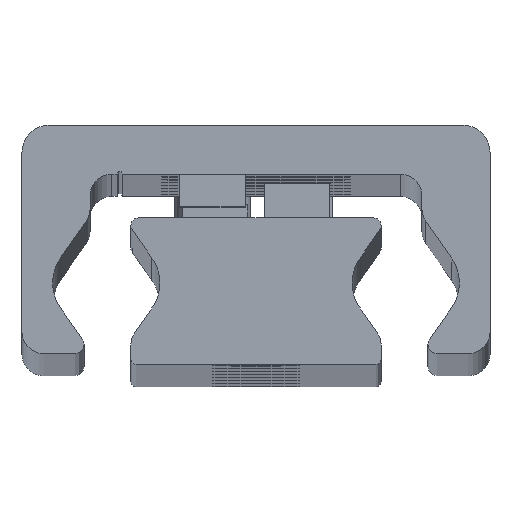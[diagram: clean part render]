
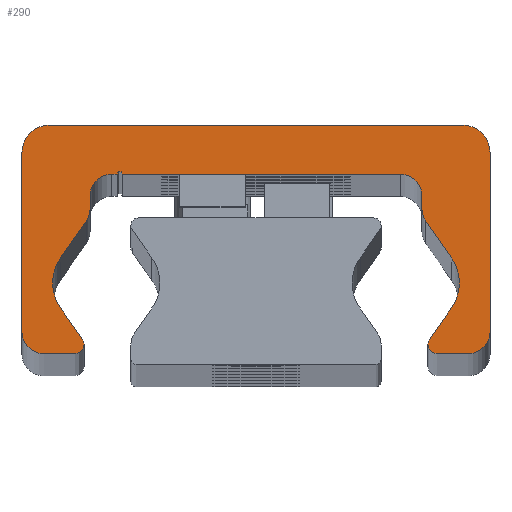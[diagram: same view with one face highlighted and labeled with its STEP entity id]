
A CAD part, top view. The second image highlights one B-rep face of the part: STEP entity #290.
In plain terms, the highlighted planar face has unit normal (0, 0, 1).
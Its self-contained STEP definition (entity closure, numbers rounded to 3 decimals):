
#290=ADVANCED_FACE('',(#808),#809,.T.);
#808=FACE_OUTER_BOUND('',#1327,.T.);
#809=PLANE('',#1328);
#1327=EDGE_LOOP('',(#3074,#3075,#3076,#3077,#3078,#3079,#3080,#3081,#3082,#3083,#3084,#3085,#3086,#3087,#3088,#3089,#3090,#3091,#3092,#3093,#3094,#3095,#3096,#3097,#3098,#3099,#3100,#3101,#3102,#3103));
#1328=AXIS2_PLACEMENT_3D('',#3104,#3105,#3106);
#3074=ORIENTED_EDGE('',*,*,#3449,.F.);
#3075=ORIENTED_EDGE('',*,*,#3702,.F.);
#3076=ORIENTED_EDGE('',*,*,#3435,.F.);
#3077=ORIENTED_EDGE('',*,*,#3701,.F.);
#3078=ORIENTED_EDGE('',*,*,#3697,.F.);
#3079=ORIENTED_EDGE('',*,*,#3694,.F.);
#3080=ORIENTED_EDGE('',*,*,#3691,.F.);
#3081=ORIENTED_EDGE('',*,*,#3688,.F.);
#3082=ORIENTED_EDGE('',*,*,#3685,.F.);
#3083=ORIENTED_EDGE('',*,*,#3682,.F.);
#3084=ORIENTED_EDGE('',*,*,#3679,.F.);
#3085=ORIENTED_EDGE('',*,*,#3676,.F.);
#3086=ORIENTED_EDGE('',*,*,#3673,.F.);
#3087=ORIENTED_EDGE('',*,*,#3670,.F.);
#3088=ORIENTED_EDGE('',*,*,#3441,.F.);
#3089=ORIENTED_EDGE('',*,*,#3668,.F.);
#3090=ORIENTED_EDGE('',*,*,#3443,.F.);
#3091=ORIENTED_EDGE('',*,*,#3667,.F.);
#3092=ORIENTED_EDGE('',*,*,#3663,.F.);
#3093=ORIENTED_EDGE('',*,*,#3660,.F.);
#3094=ORIENTED_EDGE('',*,*,#3657,.F.);
#3095=ORIENTED_EDGE('',*,*,#3654,.F.);
#3096=ORIENTED_EDGE('',*,*,#3651,.F.);
#3097=ORIENTED_EDGE('',*,*,#3648,.F.);
#3098=ORIENTED_EDGE('',*,*,#3645,.F.);
#3099=ORIENTED_EDGE('',*,*,#3642,.F.);
#3100=ORIENTED_EDGE('',*,*,#3639,.F.);
#3101=ORIENTED_EDGE('',*,*,#3636,.F.);
#3102=ORIENTED_EDGE('',*,*,#3633,.F.);
#3103=ORIENTED_EDGE('',*,*,#3630,.F.);
#3104=CARTESIAN_POINT('',(-0.023,14.187,1170.0));
#3105=DIRECTION('',(0.0,0.0,1.0));
#3106=DIRECTION('',(1.0,0.0,0.0));
#3435=EDGE_CURVE('',#4174,#4177,#4178,.T.);
#3441=EDGE_CURVE('',#4187,#4183,#4189,.T.);
#3443=EDGE_CURVE('',#4190,#4193,#4194,.T.);
#3449=EDGE_CURVE('',#4203,#4199,#4205,.T.);
#3630=EDGE_CURVE('',#4199,#4496,#4497,.T.);
#3633=EDGE_CURVE('',#4496,#4501,#4502,.T.);
#3636=EDGE_CURVE('',#4501,#4506,#4507,.T.);
#3639=EDGE_CURVE('',#4506,#4511,#4512,.T.);
#3642=EDGE_CURVE('',#4511,#4516,#4517,.T.);
#3645=EDGE_CURVE('',#4516,#4521,#4522,.T.);
#3648=EDGE_CURVE('',#4521,#4526,#4527,.T.);
#3651=EDGE_CURVE('',#4526,#4531,#4532,.T.);
#3654=EDGE_CURVE('',#4531,#4536,#4537,.T.);
#3657=EDGE_CURVE('',#4536,#4541,#4542,.T.);
#3660=EDGE_CURVE('',#4541,#4546,#4547,.T.);
#3663=EDGE_CURVE('',#4546,#4551,#4552,.T.);
#3667=EDGE_CURVE('',#4551,#4190,#4557,.T.);
#3668=EDGE_CURVE('',#4193,#4187,#4558,.T.);
#3670=EDGE_CURVE('',#4183,#4560,#4561,.T.);
#3673=EDGE_CURVE('',#4560,#4565,#4566,.T.);
#3676=EDGE_CURVE('',#4565,#4570,#4571,.T.);
#3679=EDGE_CURVE('',#4570,#4575,#4576,.T.);
#3682=EDGE_CURVE('',#4575,#4580,#4581,.T.);
#3685=EDGE_CURVE('',#4580,#4585,#4586,.T.);
#3688=EDGE_CURVE('',#4585,#4590,#4591,.T.);
#3691=EDGE_CURVE('',#4590,#4595,#4596,.T.);
#3694=EDGE_CURVE('',#4595,#4600,#4601,.T.);
#3697=EDGE_CURVE('',#4600,#4605,#4606,.T.);
#3701=EDGE_CURVE('',#4605,#4174,#4611,.T.);
#3702=EDGE_CURVE('',#4177,#4203,#4612,.T.);
#4174=VERTEX_POINT('',#5234);
#4177=VERTEX_POINT('',#5238);
#4178=CIRCLE('',#5239,0.85);
#4183=VERTEX_POINT('',#5245);
#4187=VERTEX_POINT('',#5250);
#4189=CIRCLE('',#5253,0.85);
#4190=VERTEX_POINT('',#5254);
#4193=VERTEX_POINT('',#5258);
#4194=CIRCLE('',#5259,4.);
#4199=VERTEX_POINT('',#5265);
#4203=VERTEX_POINT('',#5270);
#4205=CIRCLE('',#5273,4.);
#4496=VERTEX_POINT('',#5650);
#4497=CIRCLE('',#5651,4.);
#4501=VERTEX_POINT('',#5656);
#4502=LINE('',#5657,#5658);
#4506=VERTEX_POINT('',#5664);
#4507=CIRCLE('',#5665,2.);
#4511=VERTEX_POINT('',#5670);
#4512=LINE('',#5671,#5672);
#4516=VERTEX_POINT('',#5678);
#4517=CIRCLE('',#5679,2.0);
#4521=VERTEX_POINT('',#5684);
#4522=LINE('',#5685,#5686);
#4526=VERTEX_POINT('',#5692);
#4527=CIRCLE('',#5693,0.25);
#4531=VERTEX_POINT('',#5698);
#4532=LINE('',#5699,#5700);
#4536=VERTEX_POINT('',#5706);
#4537=CIRCLE('',#5707,2.0);
#4541=VERTEX_POINT('',#5712);
#4542=LINE('',#5713,#5714);
#4546=VERTEX_POINT('',#5720);
#4547=CIRCLE('',#5721,2.0);
#4551=VERTEX_POINT('',#5726);
#4552=LINE('',#5727,#5728);
#4557=CIRCLE('',#5735,4.);
#4558=LINE('',#5736,#5737);
#4560=VERTEX_POINT('',#5740);
#4561=CIRCLE('',#5741,0.85);
#4565=VERTEX_POINT('',#5746);
#4566=LINE('',#5747,#5748);
#4570=VERTEX_POINT('',#5754);
#4571=CIRCLE('',#5755,2.);
#4575=VERTEX_POINT('',#5760);
#4576=LINE('',#5761,#5762);
#4580=VERTEX_POINT('',#5768);
#4581=CIRCLE('',#5769,2.5);
#4585=VERTEX_POINT('',#5774);
#4586=LINE('',#5775,#5776);
#4590=VERTEX_POINT('',#5782);
#4591=CIRCLE('',#5783,2.5);
#4595=VERTEX_POINT('',#5788);
#4596=LINE('',#5789,#5790);
#4600=VERTEX_POINT('',#5796);
#4601=CIRCLE('',#5797,2.);
#4605=VERTEX_POINT('',#5802);
#4606=LINE('',#5803,#5804);
#4611=CIRCLE('',#5811,0.85);
#4612=LINE('',#5812,#5813);
#5234=CARTESIAN_POINT('',(15.8,1.859,1170.0));
#5238=CARTESIAN_POINT('',(15.922,2.298,1170.0));
#5239=AXIS2_PLACEMENT_3D('',#6399,#6400,#6401);
#5245=CARTESIAN_POINT('',(-15.8,1.859,1170.0));
#5250=CARTESIAN_POINT('',(-15.922,2.298,1170.0));
#5253=AXIS2_PLACEMENT_3D('',#6411,#6412,#6413);
#5254=CARTESIAN_POINT('',(-18.688,7.509,1170.0));
#5258=CARTESIAN_POINT('',(-17.964,5.214,1170.0));
#5259=AXIS2_PLACEMENT_3D('',#6415,#6416,#6417);
#5265=CARTESIAN_POINT('',(18.688,7.509,1170.0));
#5270=CARTESIAN_POINT('',(17.964,5.214,1170.0));
#5273=AXIS2_PLACEMENT_3D('',#6427,#6428,#6429);
#5650=CARTESIAN_POINT('',(17.964,9.803,1170.0));
#5651=AXIS2_PLACEMENT_3D('',#6798,#6799,#6800);
#5656=CARTESIAN_POINT('',(15.612,13.163,1170.0));
#5657=CARTESIAN_POINT('',(15.612,13.163,1170.0));
#5658=VECTOR('',#6805,1.0);
#5664=CARTESIAN_POINT('',(15.25,14.31,1170.0));
#5665=AXIS2_PLACEMENT_3D('',#6808,#6809,#6810);
#5670=CARTESIAN_POINT('',(15.25,15.509,1170.0));
#5671=CARTESIAN_POINT('',(15.25,15.509,1170.0));
#5672=VECTOR('',#6815,1.0);
#5678=CARTESIAN_POINT('',(13.25,17.509,1170.0));
#5679=AXIS2_PLACEMENT_3D('',#6818,#6819,#6820);
#5684=CARTESIAN_POINT('',(-12.25,17.509,1170.0));
#5685=CARTESIAN_POINT('',(-12.25,17.509,1170.0));
#5686=VECTOR('',#6825,1.0);
#5692=CARTESIAN_POINT('',(-12.75,17.509,1170.0));
#5693=AXIS2_PLACEMENT_3D('',#6828,#6829,#6830);
#5698=CARTESIAN_POINT('',(-13.25,17.509,1170.0));
#5699=CARTESIAN_POINT('',(-13.25,17.509,1170.0));
#5700=VECTOR('',#6835,1.0);
#5706=CARTESIAN_POINT('',(-15.25,15.509,1170.0));
#5707=AXIS2_PLACEMENT_3D('',#6838,#6839,#6840);
#5712=CARTESIAN_POINT('',(-15.25,14.31,1170.0));
#5713=CARTESIAN_POINT('',(-15.25,14.31,1170.0));
#5714=VECTOR('',#6845,1.0);
#5720=CARTESIAN_POINT('',(-15.612,13.163,1170.0));
#5721=AXIS2_PLACEMENT_3D('',#6848,#6849,#6850);
#5726=CARTESIAN_POINT('',(-17.964,9.803,1170.0));
#5727=CARTESIAN_POINT('',(-17.964,9.803,1170.0));
#5728=VECTOR('',#6855,1.0);
#5735=AXIS2_PLACEMENT_3D('',#6861,#6862,#6863);
#5736=CARTESIAN_POINT('',(-15.922,2.298,1170.0));
#5737=VECTOR('',#6864,1.0);
#5740=CARTESIAN_POINT('',(-16.65,1.009,1170.0));
#5741=AXIS2_PLACEMENT_3D('',#6866,#6867,#6868);
#5746=CARTESIAN_POINT('',(-19.5,1.009,1170.0));
#5747=CARTESIAN_POINT('',(-19.5,1.009,1170.0));
#5748=VECTOR('',#6873,1.0);
#5754=CARTESIAN_POINT('',(-21.5,3.009,1170.0));
#5755=AXIS2_PLACEMENT_3D('',#6876,#6877,#6878);
#5760=CARTESIAN_POINT('',(-21.5,19.509,1170.0));
#5761=CARTESIAN_POINT('',(-21.5,19.509,1170.0));
#5762=VECTOR('',#6883,1.0);
#5768=CARTESIAN_POINT('',(-19.0,22.009,1170.0));
#5769=AXIS2_PLACEMENT_3D('',#6886,#6887,#6888);
#5774=CARTESIAN_POINT('',(19.0,22.009,1170.0));
#5775=CARTESIAN_POINT('',(19.0,22.009,1170.0));
#5776=VECTOR('',#6893,1.0);
#5782=CARTESIAN_POINT('',(21.5,19.509,1170.0));
#5783=AXIS2_PLACEMENT_3D('',#6896,#6897,#6898);
#5788=CARTESIAN_POINT('',(21.5,3.009,1170.0));
#5789=CARTESIAN_POINT('',(21.5,3.009,1170.0));
#5790=VECTOR('',#6903,1.0);
#5796=CARTESIAN_POINT('',(19.5,1.009,1170.0));
#5797=AXIS2_PLACEMENT_3D('',#6906,#6907,#6908);
#5802=CARTESIAN_POINT('',(16.65,1.009,1170.0));
#5803=CARTESIAN_POINT('',(16.65,1.009,1170.0));
#5804=VECTOR('',#6913,1.0);
#5811=AXIS2_PLACEMENT_3D('',#6919,#6920,#6921);
#5812=CARTESIAN_POINT('',(17.964,5.214,1170.0));
#5813=VECTOR('',#6922,1.0);
#6399=CARTESIAN_POINT('',(16.65,1.859,1170.0));
#6400=DIRECTION('',(0.0,0.0,-1.0));
#6401=DIRECTION('',(1.0,0.0,0.0));
#6411=CARTESIAN_POINT('',(-16.65,1.859,1170.0));
#6412=DIRECTION('',(0.0,0.0,-1.0));
#6413=DIRECTION('',(1.0,0.0,0.0));
#6415=CARTESIAN_POINT('',(-14.688,7.509,1170.0));
#6416=DIRECTION('',(0.0,0.0,1.0));
#6417=DIRECTION('',(1.0,0.0,0.0));
#6427=CARTESIAN_POINT('',(14.688,7.509,1170.0));
#6428=DIRECTION('',(0.0,0.0,1.0));
#6429=DIRECTION('',(1.0,0.0,0.0));
#6798=CARTESIAN_POINT('',(14.688,7.509,1170.0));
#6799=DIRECTION('',(0.0,0.0,1.0));
#6800=DIRECTION('',(1.0,0.0,0.0));
#6805=DIRECTION('',(-0.574,0.819,0.0));
#6808=CARTESIAN_POINT('',(17.25,14.31,1170.0));
#6809=DIRECTION('',(0.0,0.0,-1.0));
#6810=DIRECTION('',(1.0,0.0,0.0));
#6815=DIRECTION('',(0.0,1.0,0.0));
#6818=CARTESIAN_POINT('',(13.25,15.509,1170.0));
#6819=DIRECTION('',(0.0,0.0,1.0));
#6820=DIRECTION('',(1.0,0.0,0.0));
#6825=DIRECTION('',(-1.0,-0.0,-0.0));
#6828=CARTESIAN_POINT('',(-12.5,17.509,1170.0));
#6829=DIRECTION('',(0.0,0.0,1.0));
#6830=DIRECTION('',(1.0,0.0,0.0));
#6835=DIRECTION('',(-1.0,-0.0,-0.0));
#6838=CARTESIAN_POINT('',(-13.25,15.509,1170.0));
#6839=DIRECTION('',(0.0,0.0,1.0));
#6840=DIRECTION('',(1.0,0.0,0.0));
#6845=DIRECTION('',(-0.0,-1.0,-0.0));
#6848=CARTESIAN_POINT('',(-17.25,14.31,1170.0));
#6849=DIRECTION('',(0.0,0.0,-1.0));
#6850=DIRECTION('',(1.0,0.0,0.0));
#6855=DIRECTION('',(-0.574,-0.819,-0.0));
#6861=CARTESIAN_POINT('',(-14.688,7.509,1170.0));
#6862=DIRECTION('',(0.0,0.0,1.0));
#6863=DIRECTION('',(1.0,0.0,0.0));
#6864=DIRECTION('',(0.574,-0.819,0.0));
#6866=CARTESIAN_POINT('',(-16.65,1.859,1170.0));
#6867=DIRECTION('',(0.0,0.0,-1.0));
#6868=DIRECTION('',(1.0,0.0,0.0));
#6873=DIRECTION('',(-1.0,-0.0,-0.0));
#6876=CARTESIAN_POINT('',(-19.5,3.009,1170.0));
#6877=DIRECTION('',(0.0,0.0,-1.0));
#6878=DIRECTION('',(1.0,0.0,0.0));
#6883=DIRECTION('',(0.0,1.0,0.0));
#6886=CARTESIAN_POINT('',(-19.0,19.509,1170.0));
#6887=DIRECTION('',(0.0,0.0,-1.0));
#6888=DIRECTION('',(1.0,0.0,0.0));
#6893=DIRECTION('',(1.0,0.0,0.0));
#6896=CARTESIAN_POINT('',(19.0,19.509,1170.0));
#6897=DIRECTION('',(0.0,0.0,-1.0));
#6898=DIRECTION('',(1.0,0.0,0.0));
#6903=DIRECTION('',(-0.0,-1.0,-0.0));
#6906=CARTESIAN_POINT('',(19.5,3.009,1170.0));
#6907=DIRECTION('',(0.0,0.0,-1.0));
#6908=DIRECTION('',(1.0,0.0,0.0));
#6913=DIRECTION('',(-1.0,-0.0,-0.0));
#6919=CARTESIAN_POINT('',(16.65,1.859,1170.0));
#6920=DIRECTION('',(0.0,0.0,-1.0));
#6921=DIRECTION('',(1.0,0.0,0.0));
#6922=DIRECTION('',(0.574,0.819,0.0));
